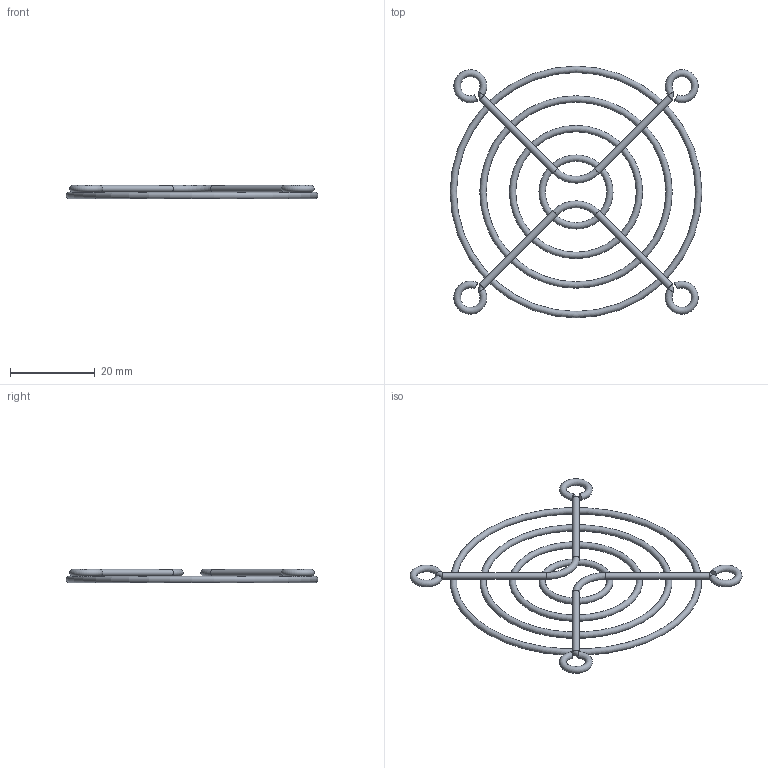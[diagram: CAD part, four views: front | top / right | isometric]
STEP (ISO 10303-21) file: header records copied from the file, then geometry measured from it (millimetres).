
FILE_DESCRIPTION(('STEP AP214'), '1');
FILE_NAME('Ðåøåòêà PL60', '', ('UNSPECIFIED'), ('UNSPECIFIED'), 'ASCON STEP Converter 1.6', 'ASCON Math Kernel', '');
FILE_SCHEMA(('AUTOMOTIVE_DESIGN { 1 0 10303 214 3 1 1}'));
Length unit declared in the file: millimetre
Bounding box: 59.5 x 59.5 x 3.15 mm (x, y, z)
Volume: 1195.1 mm3; surface area: 3211.8 mm2
Topology: 6 solids, 6 shells, 22 faces, 42 edges, 16 vertices
Faces by surface type: torus 14, plane 4, cylinder 4
Full cylindrical faces by diameter (mm): 1.6 x4
Entity records: 621 total; most frequent: DIRECTION 78, CARTESIAN_POINT 55, AXIS2_PLACEMENT_3D 39, ORIENTED_EDGE 32, COLOUR_RGB 28, FILL_AREA_STYLE_COLOUR 28, FILL_AREA_STYLE 28, SURFACE_STYLE_FILL_AREA 28
